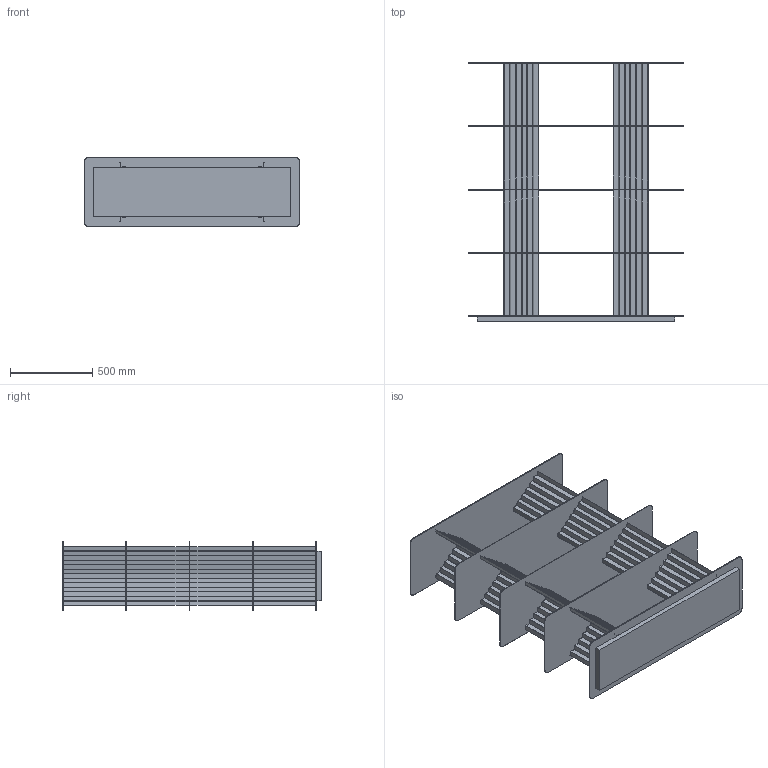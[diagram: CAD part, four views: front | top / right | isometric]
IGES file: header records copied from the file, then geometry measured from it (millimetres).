
Start section: SolidWorks IGES file using analytic representation for surfaces
Global section: file name: Z:\30-Ingenieria I+D\Proyectos\03-Plec_Shelves APO\1-sw\WEB\Arxius\PLEC SHELVES XS 4 NIVELES.IGS; native system: SolidWorks 2020; preprocessor: SolidWorks 2020; author: Bernat Llonch; date: 250508.121632; units: millimetre
Bounding box: 1305 x 1571 x 420 mm (x, y, z)
Surface area: 10769719.8 mm2 (no closed solid volume)
Topology: 0 solids, 0 shells, 488 faces, 3040 edges, 3040 vertices
Faces by surface type: bspline 468, revolution 20
